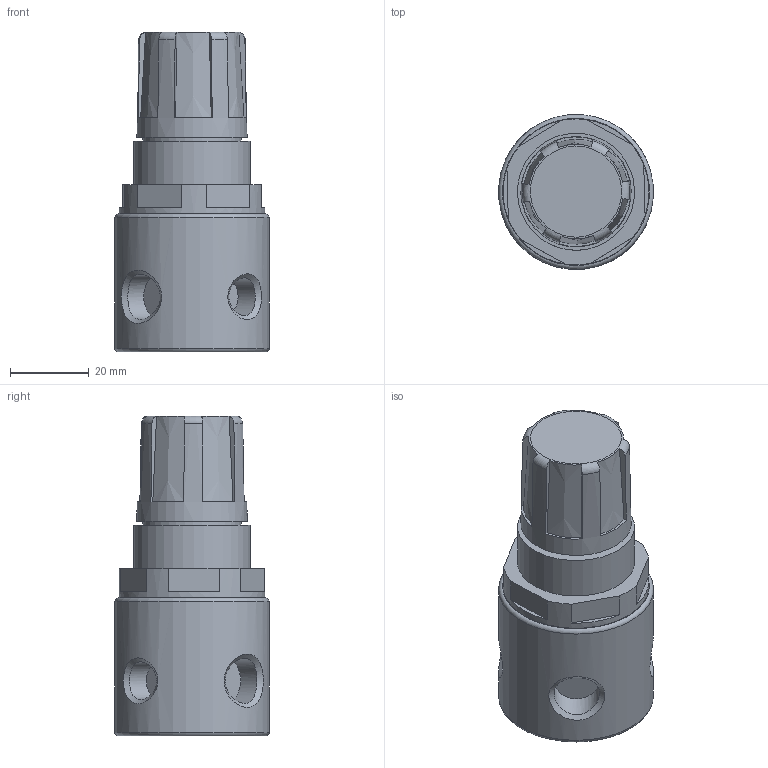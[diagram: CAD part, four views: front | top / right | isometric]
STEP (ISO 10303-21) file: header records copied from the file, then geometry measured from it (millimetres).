
FILE_DESCRIPTION((''),'2;1');
FILE_NAME('U:\AirCom-Produktdokumentation\Druckregler\R344\Zeichnungen\CAD-Aircom\3D\B-R344-02.stp','2012-01-30T13:20:58',('frank schroers'),(''),'Autodesk Inventor 2008','Autodesk Inventor 2008','');
FILE_SCHEMA(('AUTOMOTIVE_DESIGN { 1 0 10303 214 1 1 1 1 }'));
Length unit declared in the file: millimetre
Products named in the file (3): B-R344-02; B-R344-01-Knopf; B-R344-02-Gehaeuse
Assembly tree (2 placements, depth 2):
  B-R344-02
    B-R344-01-Knopf
    B-R344-02-Gehaeuse
Bounding box: 39.19 x 39.19 x 81.15 mm (x, y, z)
Volume: 74339.3 mm3; surface area: 14828.8 mm2
Topology: 2 solids, 2 shells, 65 faces, 159 edges, 105 vertices
Faces by surface type: plane 42, cylinder 9, cone 7, bspline 4, torus 3
Full cylindrical faces by diameter (mm): 9.6 x2, 11.5 x2, 25 x1, 29.7 x1, 32 x1, 37 x1, 39.3 x1
Entity records: 2703 total; most frequent: CARTESIAN_POINT 1162, DIRECTION 322, ORIENTED_EDGE 274, EDGE_CURVE 137, AXIS2_PLACEMENT_3D 131, VERTEX_POINT 97, EDGE_LOOP 86, CIRCLE 65
